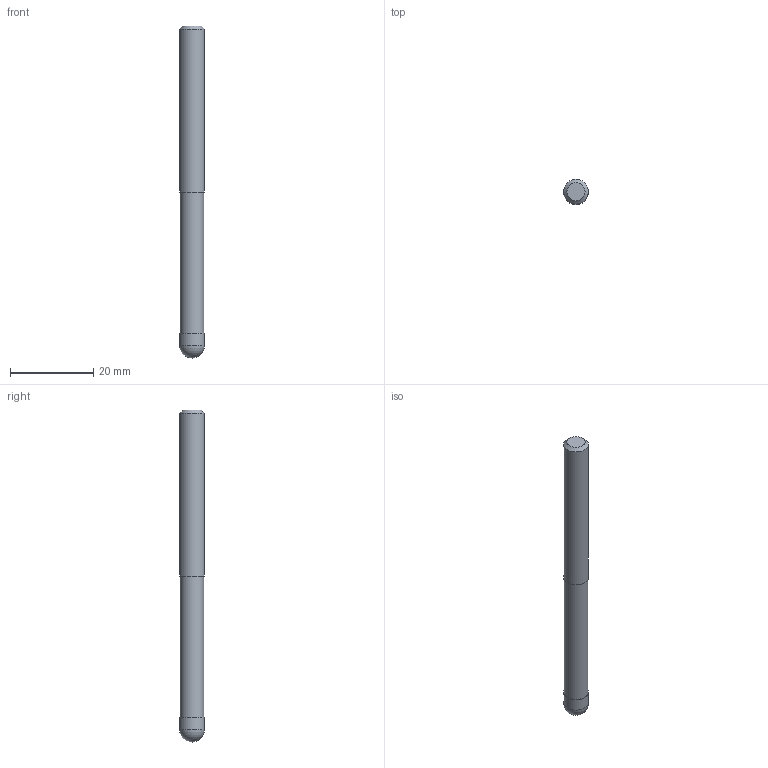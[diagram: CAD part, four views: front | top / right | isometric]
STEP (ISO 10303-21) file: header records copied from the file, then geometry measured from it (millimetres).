
FILE_DESCRIPTION((''),'2;1');
FILE_NAME('C:\Users\nsx150\AppData\Local\Temp\Mastercam 2021\F27638BAQE\TEMP.step','2021-06-25T11:40:22',(''),(''),'STEP Write','Mastercam 2021 ... CNC Software, Inc.','');
FILE_SCHEMA(('AUTOMOTIVE_DESIGN'));
Length unit declared in the file: millimetre
Products named in the file (1): None
Bounding box: 6 x 6 x 80 mm (x, y, z)
Volume: 2134.4 mm3; surface area: 1551.1 mm2
Topology: 2 solids, 2 shells, 9 faces, 13 edges, 8 vertices
Faces by surface type: plane 4, cylinder 3, sphere 1, cone 1
Full cylindrical faces by diameter (mm): 5.7 x1, 6 x2
Entity records: 211 total; most frequent: DIRECTION 36, CARTESIAN_POINT 25, AXIS2_PLACEMENT_3D 18, ORIENTED_EDGE 14, EDGE_LOOP 14, STYLED_ITEM 12, ADVANCED_FACE 9, FACE_BOUND 8
